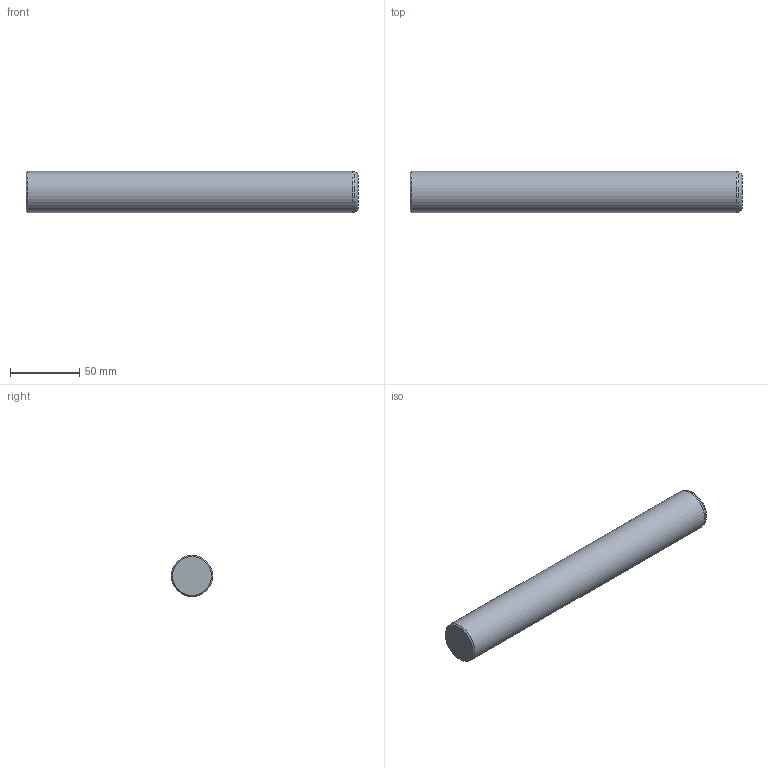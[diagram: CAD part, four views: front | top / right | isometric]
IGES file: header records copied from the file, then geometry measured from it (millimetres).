
Global section: file name: CIS30240.ipt; native system: Autodesk Inventor 2021; preprocessor: unknown; author: SM; date: 20211220.124424; units: millimetre
Bounding box: 240 x 30 x 30 mm (x, y, z)
Volume: 169324.9 mm3; surface area: 23819.4 mm2
Topology: 1 solids, 1 shells, 6 faces, 11 edges, 7 vertices
Faces by surface type: cone 2, plane 2, revolution 1, cylinder 1
Full cylindrical faces by diameter (mm): 30 x1
